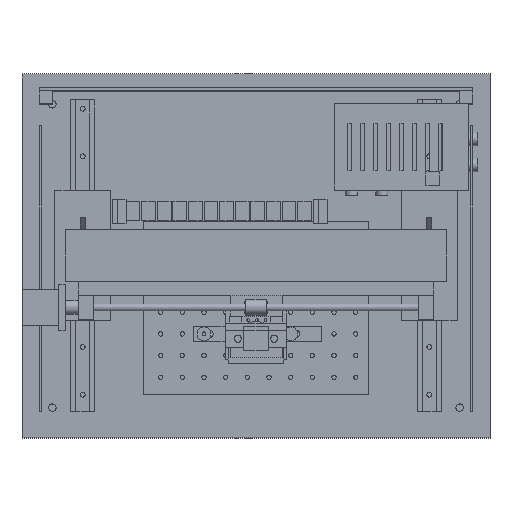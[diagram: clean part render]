
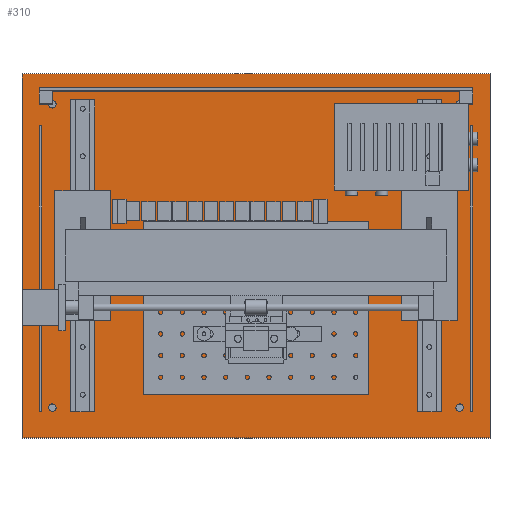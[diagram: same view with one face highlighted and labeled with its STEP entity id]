
A CAD part, top view. The second image highlights one B-rep face of the part: STEP entity #310.
In plain terms, the highlighted planar face has unit normal (0, 0, 1).
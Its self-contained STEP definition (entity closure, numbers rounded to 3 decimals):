
#121 = VERTEX_POINT('',#122);
#122 = CARTESIAN_POINT('',(0.,0.,12.));
#129 = PLANE('',#130);
#130 = AXIS2_PLACEMENT_3D('',#131,#132,#133);
#131 = CARTESIAN_POINT('',(0.,0.,0.));
#132 = DIRECTION('',(1.,0.,-0.));
#133 = DIRECTION('',(0.,0.,1.));
#141 = PLANE('',#142);
#142 = AXIS2_PLACEMENT_3D('',#143,#144,#145);
#143 = CARTESIAN_POINT('',(0.,0.,0.));
#144 = DIRECTION('',(-0.,1.,0.));
#145 = DIRECTION('',(0.,0.,1.));
#182 = VERTEX_POINT('',#183);
#183 = CARTESIAN_POINT('',(0.,420.,12.));
#197 = PLANE('',#198);
#198 = AXIS2_PLACEMENT_3D('',#199,#200,#201);
#199 = CARTESIAN_POINT('',(0.,420.,0.));
#200 = DIRECTION('',(-0.,1.,0.));
#201 = DIRECTION('',(0.,0.,1.));
#209 = EDGE_CURVE('',#121,#182,#210,.T.);
#210 = SURFACE_CURVE('',#211,(#215,#222),.PCURVE_S1.);
#211 = LINE('',#212,#213);
#212 = CARTESIAN_POINT('',(0.,0.,12.));
#213 = VECTOR('',#214,1.);
#214 = DIRECTION('',(-0.,1.,0.));
#215 = PCURVE('',#129,#216);
#216 = DEFINITIONAL_REPRESENTATION('',(#217),#221);
#217 = LINE('',#218,#219);
#218 = CARTESIAN_POINT('',(12.,0.));
#219 = VECTOR('',#220,1.);
#220 = DIRECTION('',(0.,-1.));
#221 = ( GEOMETRIC_REPRESENTATION_CONTEXT(2) 
PARAMETRIC_REPRESENTATION_CONTEXT() REPRESENTATION_CONTEXT('2D SPACE',''
  ) );
#222 = PCURVE('',#223,#228);
#223 = PLANE('',#224);
#224 = AXIS2_PLACEMENT_3D('',#225,#226,#227);
#225 = CARTESIAN_POINT('',(0.,0.,12.));
#226 = DIRECTION('',(0.,0.,1.));
#227 = DIRECTION('',(1.,0.,-0.));
#228 = DEFINITIONAL_REPRESENTATION('',(#229),#233);
#229 = LINE('',#230,#231);
#230 = CARTESIAN_POINT('',(0.,0.));
#231 = VECTOR('',#232,1.);
#232 = DIRECTION('',(0.,1.));
#233 = ( GEOMETRIC_REPRESENTATION_CONTEXT(2) 
PARAMETRIC_REPRESENTATION_CONTEXT() REPRESENTATION_CONTEXT('2D SPACE',''
  ) );
#262 = EDGE_CURVE('',#121,#263,#265,.T.);
#263 = VERTEX_POINT('',#264);
#264 = CARTESIAN_POINT('',(540.,0.,12.));
#265 = SURFACE_CURVE('',#266,(#270,#277),.PCURVE_S1.);
#266 = LINE('',#267,#268);
#267 = CARTESIAN_POINT('',(0.,0.,12.));
#268 = VECTOR('',#269,1.);
#269 = DIRECTION('',(1.,0.,-0.));
#270 = PCURVE('',#141,#271);
#271 = DEFINITIONAL_REPRESENTATION('',(#272),#276);
#272 = LINE('',#273,#274);
#273 = CARTESIAN_POINT('',(12.,0.));
#274 = VECTOR('',#275,1.);
#275 = DIRECTION('',(0.,1.));
#276 = ( GEOMETRIC_REPRESENTATION_CONTEXT(2) 
PARAMETRIC_REPRESENTATION_CONTEXT() REPRESENTATION_CONTEXT('2D SPACE',''
  ) );
#277 = PCURVE('',#223,#278);
#278 = DEFINITIONAL_REPRESENTATION('',(#279),#283);
#279 = LINE('',#280,#281);
#280 = CARTESIAN_POINT('',(0.,0.));
#281 = VECTOR('',#282,1.);
#282 = DIRECTION('',(1.,0.));
#283 = ( GEOMETRIC_REPRESENTATION_CONTEXT(2) 
PARAMETRIC_REPRESENTATION_CONTEXT() REPRESENTATION_CONTEXT('2D SPACE',''
  ) );
#299 = PLANE('',#300);
#300 = AXIS2_PLACEMENT_3D('',#301,#302,#303);
#301 = CARTESIAN_POINT('',(540.,0.,0.));
#302 = DIRECTION('',(1.,0.,-0.));
#303 = DIRECTION('',(0.,0.,1.));
#310 = ADVANCED_FACE('',(#311,#359,#390,#421,#452),#223,.T.);
#311 = FACE_BOUND('',#312,.T.);
#312 = EDGE_LOOP('',(#313,#314,#315,#338));
#313 = ORIENTED_EDGE('',*,*,#209,.F.);
#314 = ORIENTED_EDGE('',*,*,#262,.T.);
#315 = ORIENTED_EDGE('',*,*,#316,.T.);
#316 = EDGE_CURVE('',#263,#317,#319,.T.);
#317 = VERTEX_POINT('',#318);
#318 = CARTESIAN_POINT('',(540.,420.,12.));
#319 = SURFACE_CURVE('',#320,(#324,#331),.PCURVE_S1.);
#320 = LINE('',#321,#322);
#321 = CARTESIAN_POINT('',(540.,0.,12.));
#322 = VECTOR('',#323,1.);
#323 = DIRECTION('',(-0.,1.,0.));
#324 = PCURVE('',#223,#325);
#325 = DEFINITIONAL_REPRESENTATION('',(#326),#330);
#326 = LINE('',#327,#328);
#327 = CARTESIAN_POINT('',(540.,0.));
#328 = VECTOR('',#329,1.);
#329 = DIRECTION('',(0.,1.));
#330 = ( GEOMETRIC_REPRESENTATION_CONTEXT(2) 
PARAMETRIC_REPRESENTATION_CONTEXT() REPRESENTATION_CONTEXT('2D SPACE',''
  ) );
#331 = PCURVE('',#299,#332);
#332 = DEFINITIONAL_REPRESENTATION('',(#333),#337);
#333 = LINE('',#334,#335);
#334 = CARTESIAN_POINT('',(12.,0.));
#335 = VECTOR('',#336,1.);
#336 = DIRECTION('',(0.,-1.));
#337 = ( GEOMETRIC_REPRESENTATION_CONTEXT(2) 
PARAMETRIC_REPRESENTATION_CONTEXT() REPRESENTATION_CONTEXT('2D SPACE',''
  ) );
#338 = ORIENTED_EDGE('',*,*,#339,.F.);
#339 = EDGE_CURVE('',#182,#317,#340,.T.);
#340 = SURFACE_CURVE('',#341,(#345,#352),.PCURVE_S1.);
#341 = LINE('',#342,#343);
#342 = CARTESIAN_POINT('',(0.,420.,12.));
#343 = VECTOR('',#344,1.);
#344 = DIRECTION('',(1.,0.,-0.));
#345 = PCURVE('',#223,#346);
#346 = DEFINITIONAL_REPRESENTATION('',(#347),#351);
#347 = LINE('',#348,#349);
#348 = CARTESIAN_POINT('',(0.,420.));
#349 = VECTOR('',#350,1.);
#350 = DIRECTION('',(1.,0.));
#351 = ( GEOMETRIC_REPRESENTATION_CONTEXT(2) 
PARAMETRIC_REPRESENTATION_CONTEXT() REPRESENTATION_CONTEXT('2D SPACE',''
  ) );
#352 = PCURVE('',#197,#353);
#353 = DEFINITIONAL_REPRESENTATION('',(#354),#358);
#354 = LINE('',#355,#356);
#355 = CARTESIAN_POINT('',(12.,0.));
#356 = VECTOR('',#357,1.);
#357 = DIRECTION('',(0.,1.));
#358 = ( GEOMETRIC_REPRESENTATION_CONTEXT(2) 
PARAMETRIC_REPRESENTATION_CONTEXT() REPRESENTATION_CONTEXT('2D SPACE',''
  ) );
#359 = FACE_BOUND('',#360,.T.);
#360 = EDGE_LOOP('',(#361));
#361 = ORIENTED_EDGE('',*,*,#362,.F.);
#362 = EDGE_CURVE('',#363,#363,#365,.T.);
#363 = VERTEX_POINT('',#364);
#364 = CARTESIAN_POINT('',(39.3,35.,12.));
#365 = SURFACE_CURVE('',#366,(#371,#378),.PCURVE_S1.);
#366 = CIRCLE('',#367,4.3);
#367 = AXIS2_PLACEMENT_3D('',#368,#369,#370);
#368 = CARTESIAN_POINT('',(35.,35.,12.));
#369 = DIRECTION('',(0.,0.,1.));
#370 = DIRECTION('',(1.,0.,-0.));
#371 = PCURVE('',#223,#372);
#372 = DEFINITIONAL_REPRESENTATION('',(#373),#377);
#373 = CIRCLE('',#374,4.3);
#374 = AXIS2_PLACEMENT_2D('',#375,#376);
#375 = CARTESIAN_POINT('',(35.,35.));
#376 = DIRECTION('',(1.,0.));
#377 = ( GEOMETRIC_REPRESENTATION_CONTEXT(2) 
PARAMETRIC_REPRESENTATION_CONTEXT() REPRESENTATION_CONTEXT('2D SPACE',''
  ) );
#378 = PCURVE('',#379,#384);
#379 = CYLINDRICAL_SURFACE('',#380,4.3);
#380 = AXIS2_PLACEMENT_3D('',#381,#382,#383);
#381 = CARTESIAN_POINT('',(35.,35.,-1.));
#382 = DIRECTION('',(0.,0.,1.));
#383 = DIRECTION('',(1.,0.,-0.));
#384 = DEFINITIONAL_REPRESENTATION('',(#385),#389);
#385 = LINE('',#386,#387);
#386 = CARTESIAN_POINT('',(0.,13.));
#387 = VECTOR('',#388,1.);
#388 = DIRECTION('',(1.,0.));
#389 = ( GEOMETRIC_REPRESENTATION_CONTEXT(2) 
PARAMETRIC_REPRESENTATION_CONTEXT() REPRESENTATION_CONTEXT('2D SPACE',''
  ) );
#390 = FACE_BOUND('',#391,.T.);
#391 = EDGE_LOOP('',(#392));
#392 = ORIENTED_EDGE('',*,*,#393,.F.);
#393 = EDGE_CURVE('',#394,#394,#396,.T.);
#394 = VERTEX_POINT('',#395);
#395 = CARTESIAN_POINT('',(509.3,35.,12.));
#396 = SURFACE_CURVE('',#397,(#402,#409),.PCURVE_S1.);
#397 = CIRCLE('',#398,4.3);
#398 = AXIS2_PLACEMENT_3D('',#399,#400,#401);
#399 = CARTESIAN_POINT('',(505.,35.,12.));
#400 = DIRECTION('',(0.,0.,1.));
#401 = DIRECTION('',(1.,0.,-0.));
#402 = PCURVE('',#223,#403);
#403 = DEFINITIONAL_REPRESENTATION('',(#404),#408);
#404 = CIRCLE('',#405,4.3);
#405 = AXIS2_PLACEMENT_2D('',#406,#407);
#406 = CARTESIAN_POINT('',(505.,35.));
#407 = DIRECTION('',(1.,0.));
#408 = ( GEOMETRIC_REPRESENTATION_CONTEXT(2) 
PARAMETRIC_REPRESENTATION_CONTEXT() REPRESENTATION_CONTEXT('2D SPACE',''
  ) );
#409 = PCURVE('',#410,#415);
#410 = CYLINDRICAL_SURFACE('',#411,4.3);
#411 = AXIS2_PLACEMENT_3D('',#412,#413,#414);
#412 = CARTESIAN_POINT('',(505.,35.,-1.));
#413 = DIRECTION('',(0.,0.,1.));
#414 = DIRECTION('',(1.,0.,-0.));
#415 = DEFINITIONAL_REPRESENTATION('',(#416),#420);
#416 = LINE('',#417,#418);
#417 = CARTESIAN_POINT('',(0.,13.));
#418 = VECTOR('',#419,1.);
#419 = DIRECTION('',(1.,0.));
#420 = ( GEOMETRIC_REPRESENTATION_CONTEXT(2) 
PARAMETRIC_REPRESENTATION_CONTEXT() REPRESENTATION_CONTEXT('2D SPACE',''
  ) );
#421 = FACE_BOUND('',#422,.T.);
#422 = EDGE_LOOP('',(#423));
#423 = ORIENTED_EDGE('',*,*,#424,.F.);
#424 = EDGE_CURVE('',#425,#425,#427,.T.);
#425 = VERTEX_POINT('',#426);
#426 = CARTESIAN_POINT('',(39.3,385.,12.));
#427 = SURFACE_CURVE('',#428,(#433,#440),.PCURVE_S1.);
#428 = CIRCLE('',#429,4.3);
#429 = AXIS2_PLACEMENT_3D('',#430,#431,#432);
#430 = CARTESIAN_POINT('',(35.,385.,12.));
#431 = DIRECTION('',(0.,0.,1.));
#432 = DIRECTION('',(1.,0.,-0.));
#433 = PCURVE('',#223,#434);
#434 = DEFINITIONAL_REPRESENTATION('',(#435),#439);
#435 = CIRCLE('',#436,4.3);
#436 = AXIS2_PLACEMENT_2D('',#437,#438);
#437 = CARTESIAN_POINT('',(35.,385.));
#438 = DIRECTION('',(1.,0.));
#439 = ( GEOMETRIC_REPRESENTATION_CONTEXT(2) 
PARAMETRIC_REPRESENTATION_CONTEXT() REPRESENTATION_CONTEXT('2D SPACE',''
  ) );
#440 = PCURVE('',#441,#446);
#441 = CYLINDRICAL_SURFACE('',#442,4.3);
#442 = AXIS2_PLACEMENT_3D('',#443,#444,#445);
#443 = CARTESIAN_POINT('',(35.,385.,-1.));
#444 = DIRECTION('',(0.,0.,1.));
#445 = DIRECTION('',(1.,0.,-0.));
#446 = DEFINITIONAL_REPRESENTATION('',(#447),#451);
#447 = LINE('',#448,#449);
#448 = CARTESIAN_POINT('',(0.,13.));
#449 = VECTOR('',#450,1.);
#450 = DIRECTION('',(1.,0.));
#451 = ( GEOMETRIC_REPRESENTATION_CONTEXT(2) 
PARAMETRIC_REPRESENTATION_CONTEXT() REPRESENTATION_CONTEXT('2D SPACE',''
  ) );
#452 = FACE_BOUND('',#453,.T.);
#453 = EDGE_LOOP('',(#454));
#454 = ORIENTED_EDGE('',*,*,#455,.F.);
#455 = EDGE_CURVE('',#456,#456,#458,.T.);
#456 = VERTEX_POINT('',#457);
#457 = CARTESIAN_POINT('',(509.3,385.,12.));
#458 = SURFACE_CURVE('',#459,(#464,#471),.PCURVE_S1.);
#459 = CIRCLE('',#460,4.3);
#460 = AXIS2_PLACEMENT_3D('',#461,#462,#463);
#461 = CARTESIAN_POINT('',(505.,385.,12.));
#462 = DIRECTION('',(0.,0.,1.));
#463 = DIRECTION('',(1.,0.,-0.));
#464 = PCURVE('',#223,#465);
#465 = DEFINITIONAL_REPRESENTATION('',(#466),#470);
#466 = CIRCLE('',#467,4.3);
#467 = AXIS2_PLACEMENT_2D('',#468,#469);
#468 = CARTESIAN_POINT('',(505.,385.));
#469 = DIRECTION('',(1.,0.));
#470 = ( GEOMETRIC_REPRESENTATION_CONTEXT(2) 
PARAMETRIC_REPRESENTATION_CONTEXT() REPRESENTATION_CONTEXT('2D SPACE',''
  ) );
#471 = PCURVE('',#472,#477);
#472 = CYLINDRICAL_SURFACE('',#473,4.3);
#473 = AXIS2_PLACEMENT_3D('',#474,#475,#476);
#474 = CARTESIAN_POINT('',(505.,385.,-1.));
#475 = DIRECTION('',(0.,0.,1.));
#476 = DIRECTION('',(1.,0.,-0.));
#477 = DEFINITIONAL_REPRESENTATION('',(#478),#482);
#478 = LINE('',#479,#480);
#479 = CARTESIAN_POINT('',(0.,13.));
#480 = VECTOR('',#481,1.);
#481 = DIRECTION('',(1.,0.));
#482 = ( GEOMETRIC_REPRESENTATION_CONTEXT(2) 
PARAMETRIC_REPRESENTATION_CONTEXT() REPRESENTATION_CONTEXT('2D SPACE',''
  ) );
